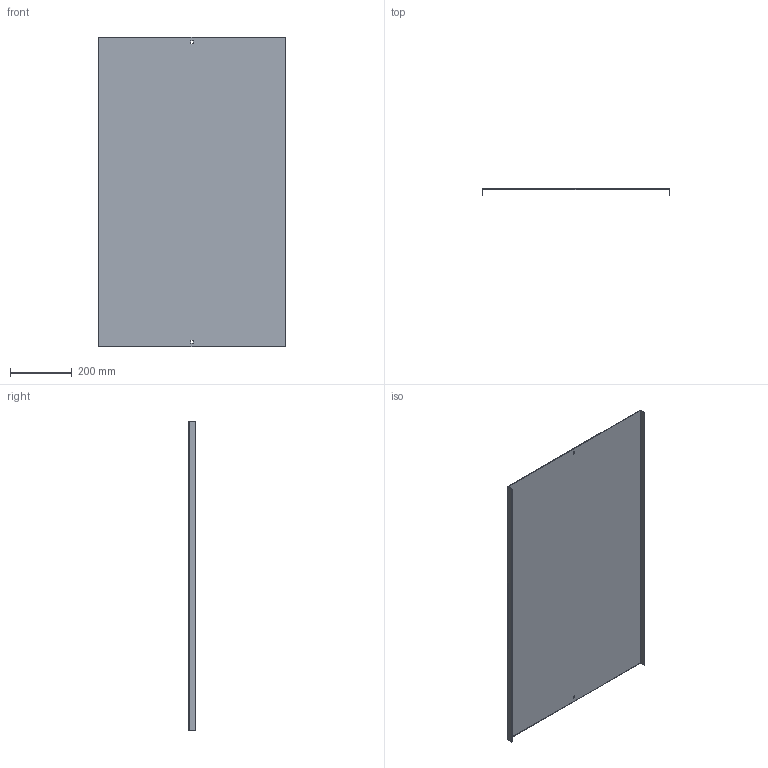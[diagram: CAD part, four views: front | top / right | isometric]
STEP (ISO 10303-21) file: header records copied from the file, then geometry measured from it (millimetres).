
FILE_DESCRIPTION (( 'STEP AP214' ), '1' );
FILE_NAME ('05G1R600.step', '2025-02-21T13:07:01', ( '' ), ( '' ), 'SwSTEP 2.0', 'SolidWorks 2023', '' );
FILE_SCHEMA (( 'AUTOMOTIVE_DESIGN' ));
Length unit declared in the file: millimetre
Products named in the file (1): 05G1R600
Bounding box: 607 x 20 x 1000 mm (x, y, z)
Volume: 965824.5 mm3; surface area: 1292791 mm2
Topology: 1 solids, 1 shells, 18 faces, 48 edges, 32 vertices
Faces by surface type: plane 18
Entity records: 583 total; most frequent: CARTESIAN_POINT 99, ORIENTED_EDGE 96, DIRECTION 86, EDGE_CURVE 48, VECTOR 48, LINE 48, VERTEX_POINT 32, EDGE_LOOP 22
